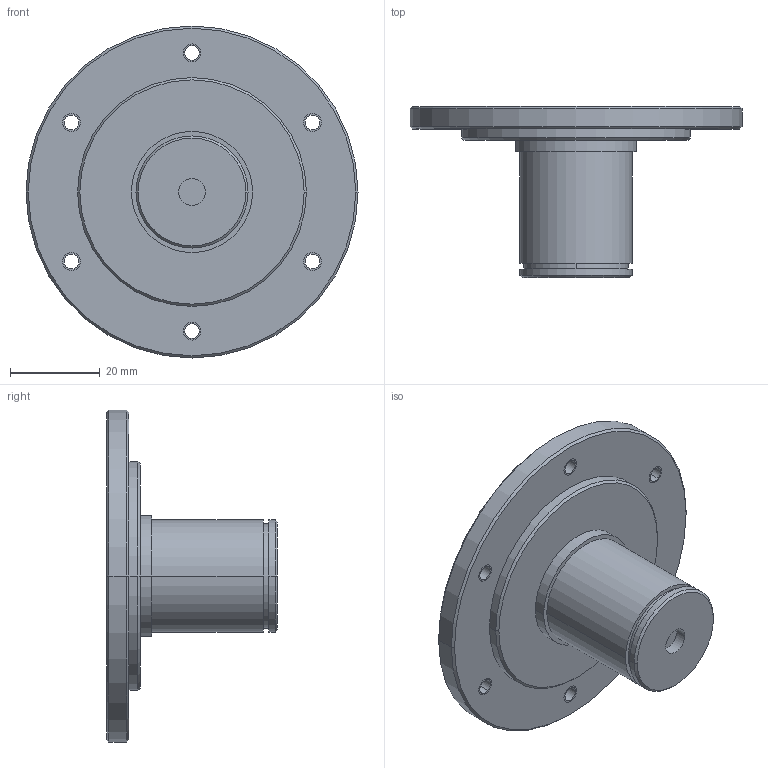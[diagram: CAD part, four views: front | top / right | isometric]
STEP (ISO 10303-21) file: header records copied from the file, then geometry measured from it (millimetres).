
FILE_DESCRIPTION((''),'2;1');
FILE_NAME('RO800010','2023-07-27T11:55:36',('Administrator'),(''),'CREO PARAMETRIC BY PTC INC, 2023014','CREO PARAMETRIC BY PTC INC, 2023014','');
FILE_SCHEMA(('CONFIG_CONTROL_DESIGN'));
Length unit declared in the file: millimetre
Products named in the file (1): RO800010
Bounding box: 74 x 38.1 x 74 mm (x, y, z)
Volume: 41016.2 mm3; surface area: 13996.5 mm2
Topology: 1 solids, 13 shells, 96 faces, 238 edges, 150 vertices
Faces by surface type: cylinder 62, cone 20, plane 14
Entity records: 2873 total; most frequent: DIRECTION 564, CARTESIAN_POINT 473, ORIENTED_EDGE 404, AXIS2_PLACEMENT_3D 241, EDGE_CURVE 226, VERTEX_POINT 150, CIRCLE 144, EDGE_LOOP 126
